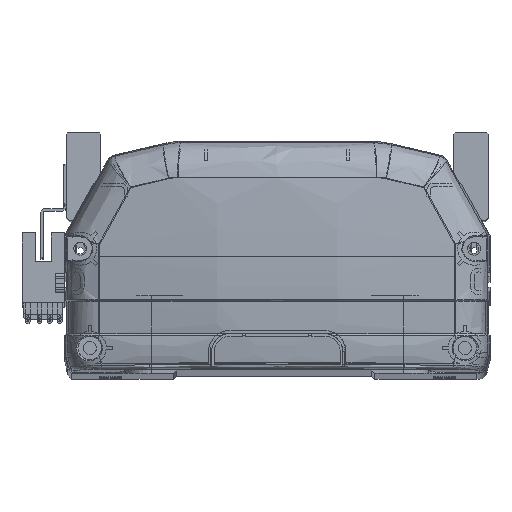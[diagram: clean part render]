
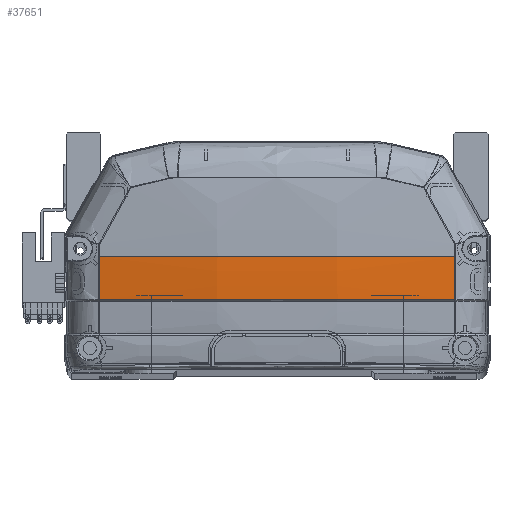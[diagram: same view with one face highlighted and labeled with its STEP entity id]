
A CAD part, top view. The second image highlights one B-rep face of the part: STEP entity #37651.
In plain terms, the highlighted free-form (B-spline) face has degree [3, 3] with [4, 4] control points.
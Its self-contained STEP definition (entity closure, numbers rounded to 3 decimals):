
#859 = VERTEX_POINT ( 'NONE', #19230 ) ;
#941 = CARTESIAN_POINT ( 'NONE',  ( 57.335, 31.38, -5.042 ) ) ;
#1135 = CARTESIAN_POINT ( 'NONE',  ( 19.295, 31.274, -11.535 ) ) ;
#1530 = DIRECTION ( 'NONE',  ( 0., 0., -1. ) ) ;
#2041 = EDGE_CURVE ( 'NONE', #57319, #54331, #56708, .T. ) ;
#3136 = EDGE_CURVE ( 'NONE', #57319, #859, #8171, .T. ) ;
#4251 = B_SPLINE_CURVE_WITH_KNOTS ( 'NONE', 3,
 ( #19648, #36917, #14313, #14703 ),
 .UNSPECIFIED., .F., .F.,
 ( 4, 4 ),
 ( 0., 1. ),
 .UNSPECIFIED. ) ;
#4716 = EDGE_LOOP ( 'NONE', ( #54929, #23552, #53490, #10995, #40272 ) ) ;
#5083 = CARTESIAN_POINT ( 'NONE',  ( -19.295, 31.274, -11.535 ) ) ;
#6064 = CARTESIAN_POINT ( 'NONE',  ( -57.335, 36., -5.042 ) ) ;
#6850 = CARTESIAN_POINT ( 'NONE',  ( -57.335, 22.148, -4.7 ) ) ;
#7020 = CARTESIAN_POINT ( 'NONE',  ( 56.652, 26.806, -5.044 ) ) ;
#8171 = B_SPLINE_CURVE_WITH_KNOTS ( 'NONE', 3,
 ( #15335, #7020, #24640, #38512 ),
 .UNSPECIFIED., .F., .F.,
 ( 4, 4 ),
 ( 0., 1. ),
 .UNSPECIFIED. ) ;
#10995 = ORIENTED_EDGE ( 'NONE', *, *, #2041, .T. ) ;
#11582 = FACE_OUTER_BOUND ( 'NONE', #4716, .T. ) ;
#13011 = CARTESIAN_POINT ( 'NONE',  ( 2.357, 22.225, -9.562 ) ) ;
#14313 = CARTESIAN_POINT ( 'NONE',  ( -56.652, 26.814, -5.045 ) ) ;
#14703 = CARTESIAN_POINT ( 'NONE',  ( -56.661, 22.225, -4.818 ) ) ;
#15335 = CARTESIAN_POINT ( 'NONE',  ( 56.661, 22.225, -4.818 ) ) ;
#17598 = CIRCLE ( 'NONE', #49953, 6395.966 ) ;
#18136 = CARTESIAN_POINT ( 'NONE',  ( 19.121, 22.225, -9.064 ) ) ;
#18291 = CARTESIAN_POINT ( 'NONE',  ( 56.661, 22.225, -4.818 ) ) ;
#18961 = CARTESIAN_POINT ( 'NONE',  ( 57.335, 26.762, -4.928 ) ) ;
#19230 = CARTESIAN_POINT ( 'NONE',  ( 56.647, 35.969, -5.158 ) ) ;
#19350 = CARTESIAN_POINT ( 'NONE',  ( -19.295, 26.549, -11.419 ) ) ;
#19541 = CARTESIAN_POINT ( 'NONE',  ( -19.295, 21.828, -11.186 ) ) ;
#19648 = CARTESIAN_POINT ( 'NONE',  ( -56.647, 36., -5.158 ) ) ;
#20410 = AXIS2_PLACEMENT_3D ( 'NONE', #52429, #29733, #57387 ) ;
#21601 =( BOUNDED_SURFACE ( )  B_SPLINE_SURFACE ( 3, 3, ( 
 ( #46670, #18961, #941, #41943 ),
 ( #23688, #41752, #1135, #32841 ),
 ( #19541, #19350, #5083, #28873 ),
 ( #6850, #24471, #38542, #6064 ) ),
 .UNSPECIFIED., .F., .F., .F. ) 
 B_SPLINE_SURFACE_WITH_KNOTS ( ( 4, 4 ),
 ( 4, 4 ),
 ( 0., 1. ),
 ( 0., 1. ),
 .UNSPECIFIED. ) 
 GEOMETRIC_REPRESENTATION_ITEM ( )  RATIONAL_B_SPLINE_SURFACE ( (
 ( 1., 1., 1., 1.),
 ( 0.99, 0.99, 0.99, 0.99),
 ( 0.99, 0.99, 0.99, 0.99),
 ( 1., 1., 1., 1.) ) ) 
 REPRESENTATION_ITEM ( '' )  SURFACE ( )  );
#22282 = VERTEX_POINT ( 'NONE', #25710 ) ;
#22674 = CARTESIAN_POINT ( 'NONE',  ( 1.152, 22.225, -9.568 ) ) ;
#23552 = ORIENTED_EDGE ( 'NONE', *, *, #40920, .F. ) ;
#23688 = CARTESIAN_POINT ( 'NONE',  ( 19.295, 21.828, -11.186 ) ) ;
#24471 = CARTESIAN_POINT ( 'NONE',  ( -57.335, 26.762, -4.928 ) ) ;
#24640 = CARTESIAN_POINT ( 'NONE',  ( 56.647, 31.387, -5.158 ) ) ;
#25444 = EDGE_CURVE ( 'NONE', #22282, #28968, #31797, .T. ) ;
#25710 = CARTESIAN_POINT ( 'NONE',  ( 56.647, 36., -5.158 ) ) ;
#26894 = CARTESIAN_POINT ( 'NONE',  ( 38.071, 22.225, -7.566 ) ) ;
#27763 = DIRECTION ( 'NONE',  ( -1., 0., 0. ) ) ;
#28873 = CARTESIAN_POINT ( 'NONE',  ( -19.295, 36., -11.535 ) ) ;
#28968 = VERTEX_POINT ( 'NONE', #58443 ) ;
#29733 = DIRECTION ( 'NONE',  ( 0., 1., 0. ) ) ;
#31797 = CIRCLE ( 'NONE', #20410, 340.733 ) ;
#31852 = CARTESIAN_POINT ( 'NONE',  ( 11.954, 22.225, -9.367 ) ) ;
#32042 = CARTESIAN_POINT ( 'NONE',  ( -19.28, 22.225, -9.565 ) ) ;
#32257 = CARTESIAN_POINT ( 'NONE',  ( 6452.613, 35.969, -5.158 ) ) ;
#32841 = CARTESIAN_POINT ( 'NONE',  ( 19.295, 36., -11.535 ) ) ;
#36195 = CARTESIAN_POINT ( 'NONE',  ( 56.661, 22.225, -4.818 ) ) ;
#36917 = CARTESIAN_POINT ( 'NONE',  ( -56.647, 31.405, -5.158 ) ) ;
#37651 = ADVANCED_FACE ( 'NONE', ( #11582 ), #21601, .T. ) ;
#38512 = CARTESIAN_POINT ( 'NONE',  ( 56.647, 35.969, -5.158 ) ) ;
#38542 = CARTESIAN_POINT ( 'NONE',  ( -57.335, 31.38, -5.042 ) ) ;
#39417 = CARTESIAN_POINT ( 'NONE',  ( -56.661, 22.225, -4.818 ) ) ;
#40272 = ORIENTED_EDGE ( 'NONE', *, *, #48569, .F. ) ;
#40920 = EDGE_CURVE ( 'NONE', #859, #22282, #17598, .T. ) ;
#41752 = CARTESIAN_POINT ( 'NONE',  ( 19.295, 26.549, -11.419 ) ) ;
#41943 = CARTESIAN_POINT ( 'NONE',  ( 57.335, 36., -5.042 ) ) ;
#44688 = CARTESIAN_POINT ( 'NONE',  ( 23.877, 22.225, -8.763 ) ) ;
#45286 = CARTESIAN_POINT ( 'NONE',  ( 47.432, 22.225, -6.377 ) ) ;
#46670 = CARTESIAN_POINT ( 'NONE',  ( 57.335, 22.148, -4.7 ) ) ;
#48569 = EDGE_CURVE ( 'NONE', #28968, #54331, #4251, .T. ) ;
#49781 = CARTESIAN_POINT ( 'NONE',  ( 8.363, 22.225, -9.48 ) ) ;
#49953 = AXIS2_PLACEMENT_3D ( 'NONE', #32257, #1530, #27763 ) ;
#52429 = CARTESIAN_POINT ( 'NONE',  ( 0., 36., 330.833 ) ) ;
#53490 = ORIENTED_EDGE ( 'NONE', *, *, #3136, .F. ) ;
#53954 = CARTESIAN_POINT ( 'NONE',  ( -38.235, 22.225, -7.93 ) ) ;
#54331 = VERTEX_POINT ( 'NONE', #39417 ) ;
#54558 = CARTESIAN_POINT ( 'NONE',  ( -56.661, 22.225, -4.818 ) ) ;
#54929 = ORIENTED_EDGE ( 'NONE', *, *, #25444, .F. ) ;
#56708 = B_SPLINE_CURVE_WITH_KNOTS ( 'NONE', 3,
 ( #36195, #45286, #26894, #44688, #18136, #31852, #49781, #58527, #13011, #22674, #32042, #53954, #54558 ),
 .UNSPECIFIED., .F., .F.,
 ( 4, 2, 2, 1, 2, 2, 4 ),
 ( 0., 0.25, 0.375, 0.438, 0.469, 0.5, 1. ),
 .UNSPECIFIED. ) ;
#57319 = VERTEX_POINT ( 'NONE', #18291 ) ;
#57387 = DIRECTION ( 'NONE',  ( 0., 0., -1. ) ) ;
#58443 = CARTESIAN_POINT ( 'NONE',  ( -56.647, 36., -5.158 ) ) ;
#58527 = CARTESIAN_POINT ( 'NONE',  ( 4.761, 22.225, -9.537 ) ) ;
